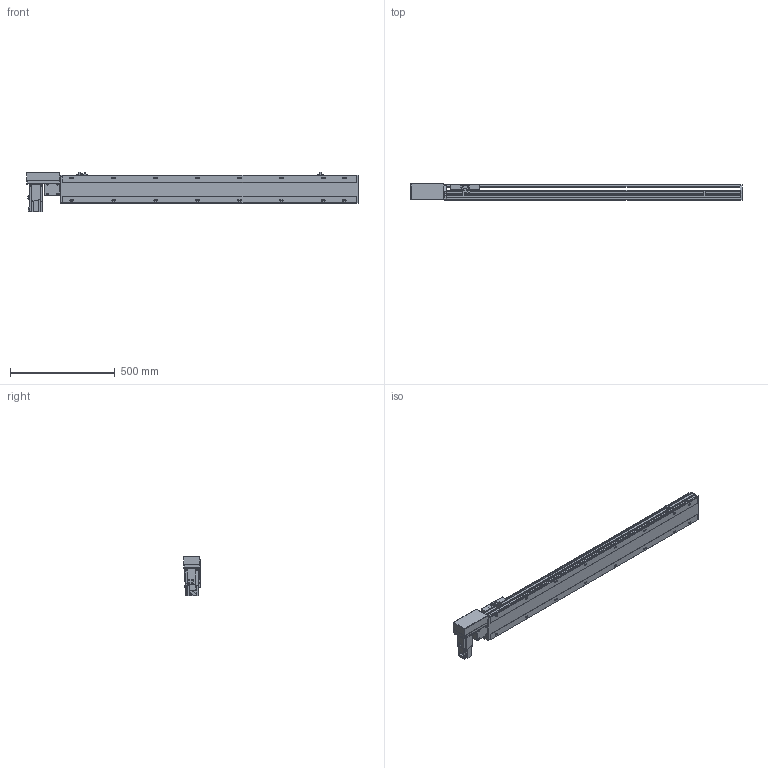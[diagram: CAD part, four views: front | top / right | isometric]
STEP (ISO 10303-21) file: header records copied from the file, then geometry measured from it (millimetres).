
FILE_DESCRIPTION(/* description */ ('STEP AP214'),/* implementation_level */ '2;1');
FILE_NAME(/* name */ 'PBS140-P40-S1150-R-T40-C1-N(0)',/* time_stamp */ '2022-06-06T03:28:16+02:00',/* author */ ('License CC BY-ND 4.0'),/* organization */ ('CADENAS'),/* preprocessor_version */ 'ST-DEVELOPER v18.102',/* originating_system */ 'PARTsolutions',/* authorisation */ ' ');
FILE_SCHEMA (('AUTOMOTIVE_DESIGN {1 0 10303 214 3 1 1}'));
Length unit declared in the file: millimetre
Products named in the file (7): PBS140-P40-S1150-R-T40-C1-N(0); PBS140_sensor; PBS140_plant; PBS140_sliser; T40-p1; PBS140T-R_motors; PBS140-S1150()_body
Assembly tree (8 placements, depth 2):
  PBS140-P40-S1150-R-T40-C1-N(0)
    PBS140_sensor  x3
    PBS140_plant
    PBS140_sliser
    T40-p1
    PBS140T-R_motors
    PBS140-S1150()_body
Bounding box: 1583 x 80.5 x 189.7 mm (x, y, z)
Volume: 7141114.4 mm3; surface area: 1243959.7 mm2
Topology: 8 solids, 8 shells, 1075 faces, 2836 edges, 1853 vertices
Faces by surface type: plane 692, cylinder 331, cone 42, sphere 8, torus 2
Full cylindrical faces by diameter (mm): 3.242 x4, 4 x2, 4.134 x4, 4.4 x8, 4.5 x2, 4.8 x4, 4.917 x24, 5.5 x7, 6 x2, 7 x18, 7.5 x8, 8 x12, 8.5 x4, 10.5 x16, 14 x1, 30 x2, 50 x2
Entity records: 30645 total; most frequent: CARTESIAN_POINT 5665, DIRECTION 5197, ORIENTED_EDGE 4912, EDGE_CURVE 2456, AXIS2_PLACEMENT_3D 1807, VERTEX_POINT 1701, LINE 1583, VECTOR 1583
